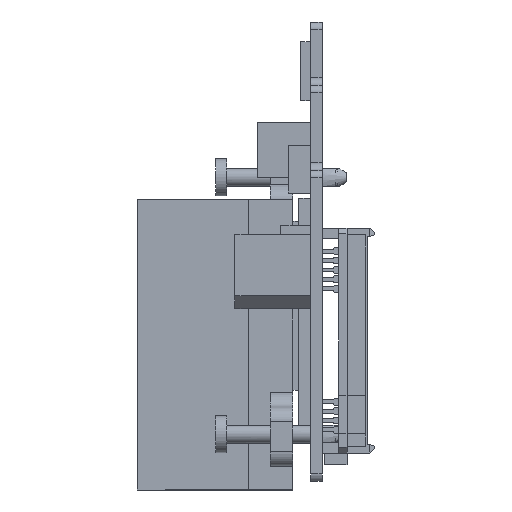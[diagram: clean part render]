
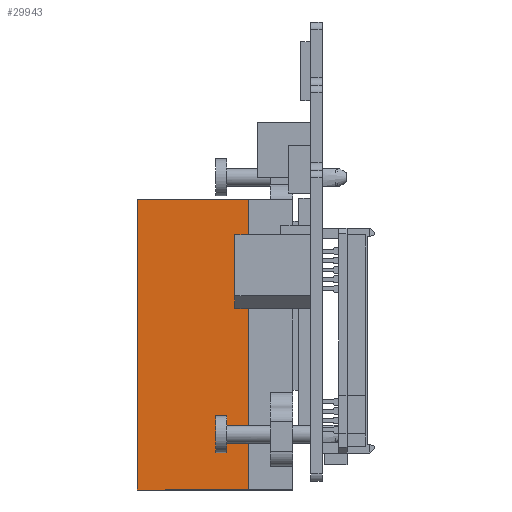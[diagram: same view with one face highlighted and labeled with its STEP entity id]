
A CAD part, left-side view. The second image highlights one B-rep face of the part: STEP entity #29943.
In plain terms, the highlighted planar face has unit normal (-1, 0, 0).
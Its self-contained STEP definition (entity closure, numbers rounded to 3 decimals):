
#632 = LINE ( 'NONE', #11702, #8996 ) ;
#2215 = DIRECTION ( 'NONE',  ( 0., -1., 0. ) ) ;
#2776 = VERTEX_POINT ( 'NONE', #24604 ) ;
#3487 = LINE ( 'NONE', #28479, #19247 ) ;
#5462 = ORIENTED_EDGE ( 'NONE', *, *, #12697, .F. ) ;
#6523 = AXIS2_PLACEMENT_3D ( 'NONE', #16297, #10254, #32282 ) ;
#7999 = CARTESIAN_POINT ( 'NONE',  ( -41.5, 6., -39.2 ) ) ;
#8996 = VECTOR ( 'NONE', #2215, 1000. ) ;
#10254 = DIRECTION ( 'NONE',  ( -1., 0., 0. ) ) ;
#11297 = VERTEX_POINT ( 'NONE', #16744 ) ;
#11702 = CARTESIAN_POINT ( 'NONE',  ( -41.5, 6., -39.2 ) ) ;
#12697 = EDGE_CURVE ( 'NONE', #17182, #2776, #3487, .T. ) ;
#14694 = CARTESIAN_POINT ( 'NONE',  ( -41.5, 6., -39.2 ) ) ;
#14713 = EDGE_CURVE ( 'NONE', #38943, #11297, #23576, .T. ) ;
#15300 = LINE ( 'NONE', #20557, #32100 ) ;
#16297 = CARTESIAN_POINT ( 'NONE',  ( -41.5, 6., -39.2 ) ) ;
#16744 = CARTESIAN_POINT ( 'NONE',  ( -41.5, 6., 0. ) ) ;
#17182 = VERTEX_POINT ( 'NONE', #24784 ) ;
#19247 = VECTOR ( 'NONE', #31618, 1000. ) ;
#19831 = EDGE_LOOP ( 'NONE', ( #22930, #5462, #30539, #32882 ) ) ;
#20557 = CARTESIAN_POINT ( 'NONE',  ( -41.5, 6., 0. ) ) ;
#22589 = VECTOR ( 'NONE', #30061, 1000. ) ;
#22930 = ORIENTED_EDGE ( 'NONE', *, *, #40222, .F. ) ;
#23576 = LINE ( 'NONE', #7999, #22589 ) ;
#24604 = CARTESIAN_POINT ( 'NONE',  ( -41.5, 21., 0. ) ) ;
#24784 = CARTESIAN_POINT ( 'NONE',  ( -41.5, 21., -39.2 ) ) ;
#28425 = EDGE_CURVE ( 'NONE', #17182, #38943, #632, .T. ) ;
#28479 = CARTESIAN_POINT ( 'NONE',  ( -41.5, 21., -39.2 ) ) ;
#29140 = PLANE ( 'NONE',  #6523 ) ;
#29943 = ADVANCED_FACE ( 'NONE', ( #40439 ), #29140, .T. ) ;
#30061 = DIRECTION ( 'NONE',  ( 0., 0., 1. ) ) ;
#30539 = ORIENTED_EDGE ( 'NONE', *, *, #28425, .T. ) ;
#31618 = DIRECTION ( 'NONE',  ( 0., 0., 1. ) ) ;
#32100 = VECTOR ( 'NONE', #39407, 1000. ) ;
#32282 = DIRECTION ( 'NONE',  ( 0., 0., 1. ) ) ;
#32882 = ORIENTED_EDGE ( 'NONE', *, *, #14713, .T. ) ;
#38943 = VERTEX_POINT ( 'NONE', #14694 ) ;
#39407 = DIRECTION ( 'NONE',  ( 0., -1., 0. ) ) ;
#40222 = EDGE_CURVE ( 'NONE', #2776, #11297, #15300, .T. ) ;
#40439 = FACE_OUTER_BOUND ( 'NONE', #19831, .T. ) ;
